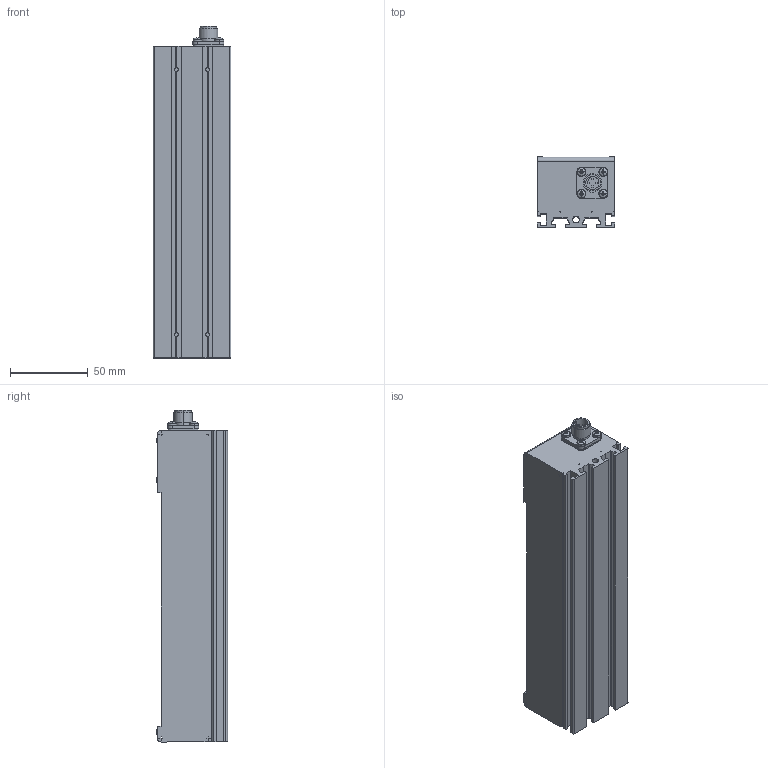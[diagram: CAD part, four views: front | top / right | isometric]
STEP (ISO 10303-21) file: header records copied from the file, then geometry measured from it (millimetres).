
FILE_DESCRIPTION (( 'STEP AP203' ), '1' );
FILE_NAME ('MHBC-C#150-DF_A21359A0100101A-014.STEP', '2014-08-29T10:19:41', ( '' ), ( '' ), 'SwSTEP 2.0', 'SolidWorks 2011', '' );
FILE_SCHEMA (( 'CONFIG_CONTROL_DESIGN' ));
Length unit declared in the file: millimetre
Products named in the file (1): MHBC-C#150-DF_A21359A0100101A-014
Bounding box: 50 x 45.6 x 213 mm (x, y, z)
Volume: 372143.5 mm3; surface area: 97140.7 mm2
Topology: 2 solids, 30 shells, 1034 faces, 2687 edges, 1676 vertices
Faces by surface type: plane 588, cylinder 246, cone 156, torus 36, sphere 8
Entity records: 31666 total; most frequent: CARTESIAN_POINT 6086, DIRECTION 5481, ORIENTED_EDGE 5294, EDGE_CURVE 2647, AXIS2_PLACEMENT_3D 1979, VERTEX_POINT 1676, LINE 1523, VECTOR 1523
